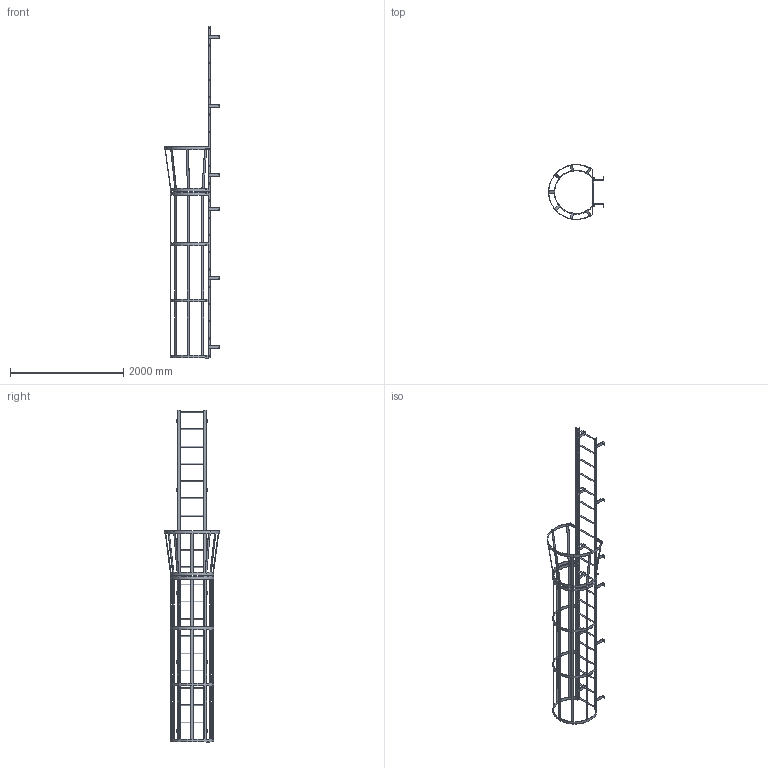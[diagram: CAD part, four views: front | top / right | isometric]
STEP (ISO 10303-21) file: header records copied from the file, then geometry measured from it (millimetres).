
FILE_DESCRIPTION(/* description */ (''),/* implementation_level */ '2;1');
FILE_NAME(/* name */ 'P:\MIKEL & KAREN\D0570195-06 F20SC SIMPLIFIED PART.stp',/* time_stamp */ '2018-07-03T08:05:32-04:00',/* author */ ('stephanie'),/* organization */ (''),/* preprocessor_version */ 'ST-DEVELOPER v16.1',/* originating_system */ 'Autodesk Inventor 2016',/* authorisation */ '');
FILE_SCHEMA (('AUTOMOTIVE_DESIGN { 1 0 10303 214 3 1 1 }'));
Length unit declared in the file: centimetre
Products named in the file (1): D0570195-06 F20SC SIMPLIFIED PART
Bounding box: 974.15 x 977.88 x 5867.4 mm (x, y, z)
Volume: 19124230.3 mm3; surface area: 6654630.3 mm2
Topology: 28 solids, 28 shells, 609 faces, 1811 edges, 1174 vertices
Faces by surface type: plane 408, cylinder 201
Full cylindrical faces by diameter (mm): 14.287 x14, 19.05 x20, 22.225 x40
Entity records: 20629 total; most frequent: ORIENTED_EDGE 3478, DIRECTION 3413, CARTESIAN_POINT 3413, EDGE_CURVE 1683, LINE 1173, VECTOR 1173, VERTEX_POINT 1120, AXIS2_PLACEMENT_3D 1120
